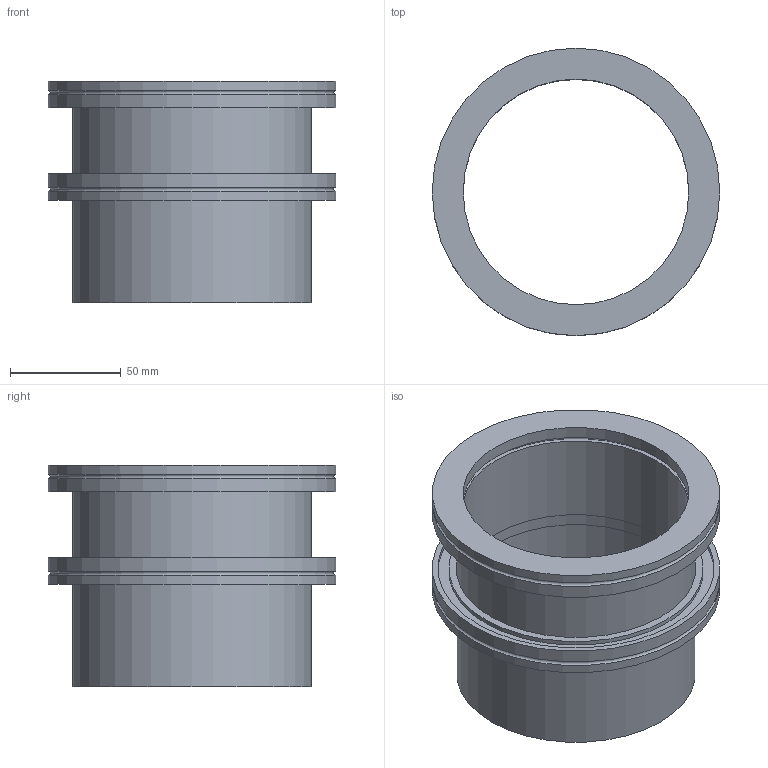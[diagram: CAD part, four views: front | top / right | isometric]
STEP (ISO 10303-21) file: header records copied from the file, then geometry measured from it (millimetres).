
FILE_DESCRIPTION( ( 'Unknown' ), '1' );
FILE_NAME( 'X:/Daten ( aktueller Bestand )/Projekte und Zeichnungen/Solid Edge/10 ISO-K Bauteile/ISO-K-Flansch mit langem Rohransatz/6572.stp', 'Unknown', ( 'Unknown' ), ( 'Unknown' ), 'XStep 1.0', 'Unknown', ' ' );
FILE_SCHEMA( ( 'automotive_design' ) );
Length unit declared in the file: millimetre
Products named in the file (3): Assem1; 6572-1; 6512
Bounding box: 130 x 130 x 100 mm (x, y, z)
Volume: 285738.4 mm3; surface area: 167276.1 mm2
Topology: 4 solids, 4 shells, 34 faces, 54 edges, 34 vertices
Faces by surface type: cylinder 16, plane 14, cone 2, torus 2
Full cylindrical faces by diameter (mm): 102 x4, 108 x2, 108.5 x2, 115 x2, 125 x2, 130 x4
Entity records: 436 total; most frequent: DIRECTION 74, CARTESIAN_POINT 54, AXIS2_PLACEMENT_3D 37, EDGE_LOOP 34, ORIENTED_EDGE 34, FACE_OUTER_BOUND 26, ADVANCED_FACE 17, EDGE_CURVE 17
